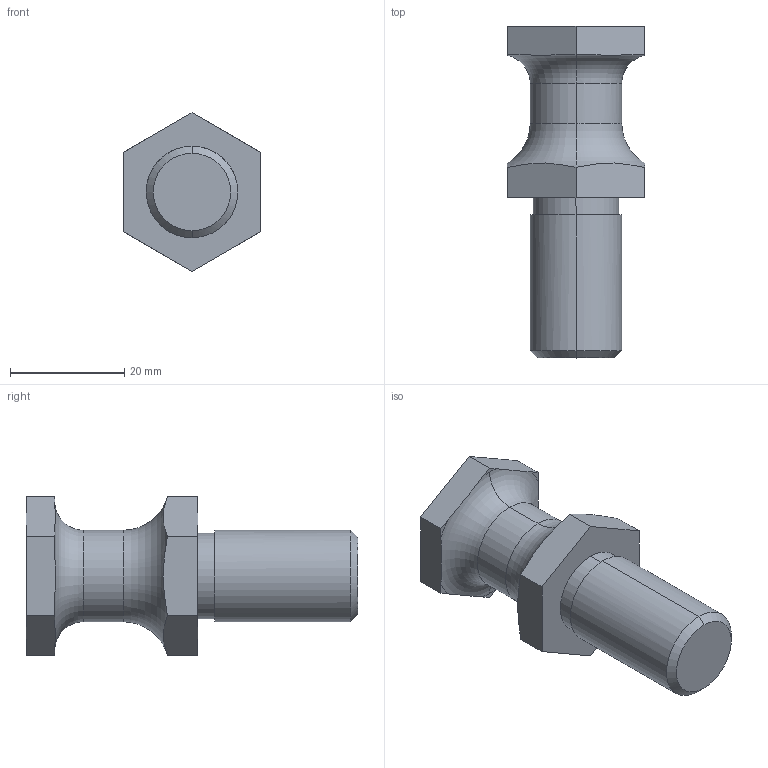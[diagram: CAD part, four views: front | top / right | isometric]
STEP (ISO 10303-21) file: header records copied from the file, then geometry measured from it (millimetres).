
FILE_DESCRIPTION(('CATIA V5 STEP Exchange'),'2;1');
FILE_NAME('C:\Users\Utente\Desktop\3D files 395P\395P-02-016-016.stp','2020-04-09T18:52:56+00:00',('none'),('none'),'CATIA Version 5 Release 20 GA (IN-10)','CATIA V5 STEP AP203','none');
FILE_SCHEMA(('CONFIG_CONTROL_DESIGN'));
Length unit declared in the file: millimetre
Products named in the file (1): 395P-02-016-016
Bounding box: 24 x 58 x 27.71 mm (x, y, z)
Volume: 15604.9 mm3; surface area: 4654.2 mm2
Topology: 1 solids, 1 shells, 34 faces, 106 edges, 76 vertices
Faces by surface type: plane 22, cylinder 6, torus 4, cone 2
Entity records: 1380 total; most frequent: CARTESIAN_POINT 417, ORIENTED_EDGE 212, DIRECTION 154, EDGE_CURVE 106, AXIS2_PLACEMENT_3D 77, VERTEX_POINT 76, VECTOR 44, LINE 44
